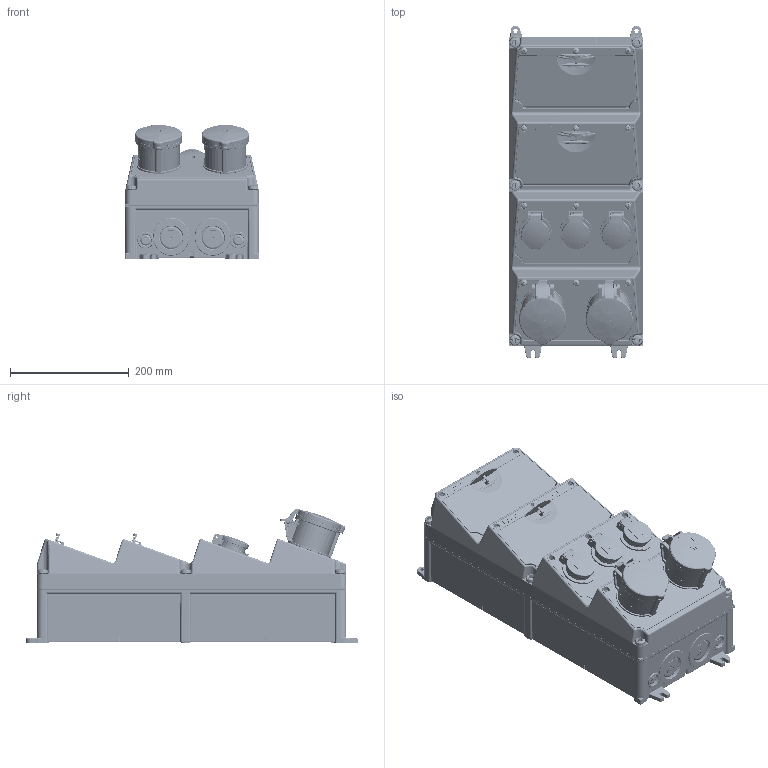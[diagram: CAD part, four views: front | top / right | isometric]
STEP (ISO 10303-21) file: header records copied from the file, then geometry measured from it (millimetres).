
FILE_DESCRIPTION((''),'2;1');
FILE_NAME('940008-4_ASM_1_ASM','2018-05-07T',('hoffmannf'),('MENNEKES'),'PRO/ENGINEER BY PARAMETRIC TECHNOLOGY CORPORATION, 2015440','PRO/ENGINEER BY PARAMETRIC TECHNOLOGY CORPORATION, 2015440','');
FILE_SCHEMA(('AUTOMOTIVE_DESIGN { 1 0 10303 214 1 1 1 1 }'));
Products named in the file (14): 4-4_SW_O_GRAU_1; MP_FEN10_44_OBEN_GRAU_1; MP_LEER_GRAU_1; MANIFOLD_SOLID_BREP_333283; MANIFOLD_SOLID_BREP_421646; MANIFOLD_SOLID_BREP_421983; MANIFOLD_SOLID_BREP_424462; FI_4POL_4TE_1_ASM; LS_3POL_3TE_1; LS_1POL_1TE_1; BAUTEIL_DUMMY__1; AMAXX_CEE_32_5_44_ROT_1; AMAXX_SCHUKO_44_BLAU_1; 940008-4_ASM_1_ASM
Assembly tree (21 placements, depth 3):
  940008-4_ASM_1_ASM
    4-4_SW_O_GRAU_1
    MP_FEN10_44_OBEN_GRAU_1  x2
    MP_LEER_GRAU_1  x2
    FI_4POL_4TE_1_ASM
      MANIFOLD_SOLID_BREP_333283
      MANIFOLD_SOLID_BREP_421646
      MANIFOLD_SOLID_BREP_421983
      MANIFOLD_SOLID_BREP_424462
    LS_3POL_3TE_1  x2
    LS_1POL_1TE_1  x3
    BAUTEIL_DUMMY__1
    AMAXX_CEE_32_5_44_ROT_1  x2
    AMAXX_SCHUKO_44_BLAU_1  x3
Bounding box: 225 x 558.2 x 225.76 mm (x, y, z)
Volume: 13673418.8 mm3; surface area: 1450888.3 mm2
Topology: 19 solids, 19 shells, 15851 faces, 43825 edges, 28027 vertices
Faces by surface type: plane 7815, cylinder 4322, bspline 1326, torus 1251, cone 439, sphere 373, extrusion 325
Entity records: 510576 total; most frequent: CARTESIAN_POINT 145353, ORIENTED_EDGE 59824, DIRECTION 52866, EDGE_CURVE 29912, VERTEX_POINT 19114, AXIS2_PLACEMENT_3D 18163, VECTOR 16540, LINE 16392
